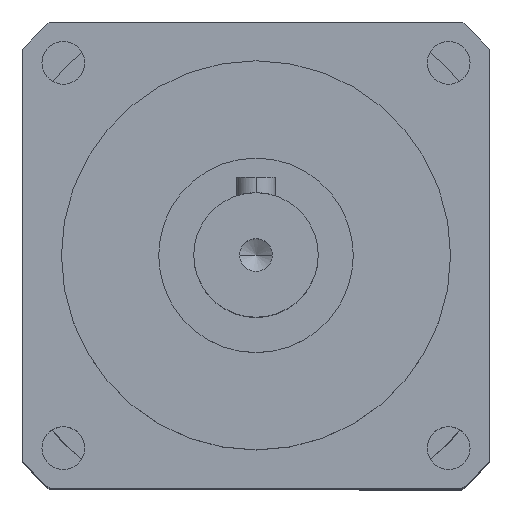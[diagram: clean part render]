
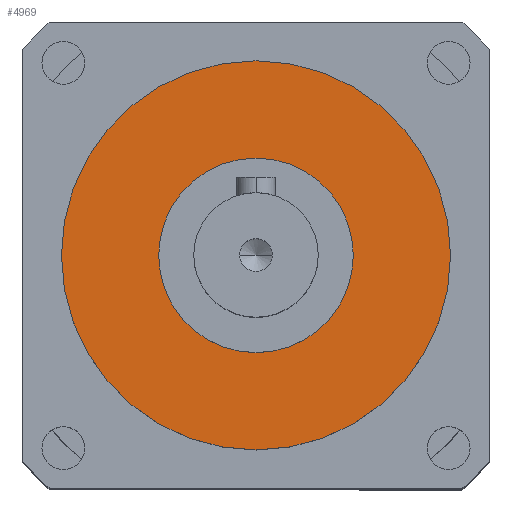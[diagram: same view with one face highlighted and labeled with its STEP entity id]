
A CAD part, top view. The second image highlights one B-rep face of the part: STEP entity #4969.
In plain terms, the highlighted planar face has unit normal (0, 0, 1).
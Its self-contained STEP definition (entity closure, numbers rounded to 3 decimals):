
#498 = CARTESIAN_POINT ( 'NONE',  ( 0., 0., 7. ) ) ;
#500 = PLANE ( 'NONE',  #8311 ) ;
#503 = DIRECTION ( 'NONE',  ( 0., 0., 1. ) ) ;
#504 = DIRECTION ( 'NONE',  ( 1., 0., 0. ) ) ;
#1222 = EDGE_CURVE ( 'NONE', #2706, #2705, #7843, .T. ) ;
#1282 = EDGE_CURVE ( 'NONE', #2705, #2706, #4718, .T. ) ;
#1367 = AXIS2_PLACEMENT_3D ( 'NONE', #7940, #7943, #7941 ) ;
#1393 = AXIS2_PLACEMENT_3D ( 'NONE', #6769, #6770, #6771 ) ;
#1553 = CARTESIAN_POINT ( 'NONE',  ( -25., 0., 7. ) ) ;
#1554 = CARTESIAN_POINT ( 'NONE',  ( 25., 0., 7. ) ) ;
#2341 = ORIENTED_EDGE ( 'NONE', *, *, #1282, .F. ) ;
#2446 = ORIENTED_EDGE ( 'NONE', *, *, #1222, .F. ) ;
#2705 = VERTEX_POINT ( 'NONE', #1553 ) ;
#2706 = VERTEX_POINT ( 'NONE', #1554 ) ;
#4379 = FACE_OUTER_BOUND ( 'NONE', #5813, .T. ) ;
#4718 = CIRCLE ( 'NONE', #1393, 25. ) ;
#4969 = ADVANCED_FACE ( 'NONE', ( #4379 ), #500, .T. ) ;
#5813 = EDGE_LOOP ( 'NONE', ( #2341, #2446 ) ) ;
#6769 = CARTESIAN_POINT ( 'NONE',  ( 0., 0., 7. ) ) ;
#6770 = DIRECTION ( 'NONE',  ( 0., 0., -1. ) ) ;
#6771 = DIRECTION ( 'NONE',  ( -1., 0., 0. ) ) ;
#7843 = CIRCLE ( 'NONE', #1367, 25. ) ;
#7940 = CARTESIAN_POINT ( 'NONE',  ( 0., 0., 7. ) ) ;
#7941 = DIRECTION ( 'NONE',  ( -1., 0., 0. ) ) ;
#7943 = DIRECTION ( 'NONE',  ( 0., 0., -1. ) ) ;
#8311 = AXIS2_PLACEMENT_3D ( 'NONE', #498, #503, #504 ) ;
